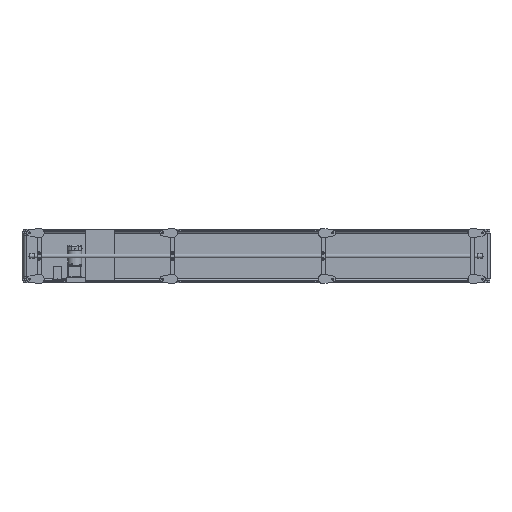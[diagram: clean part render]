
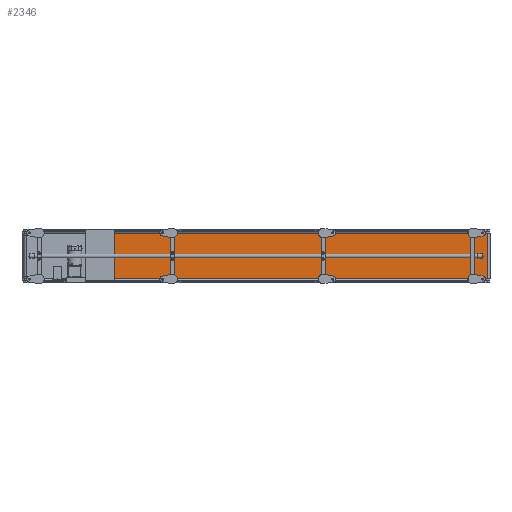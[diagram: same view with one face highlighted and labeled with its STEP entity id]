
A CAD part, front view. The second image highlights one B-rep face of the part: STEP entity #2346.
In plain terms, the highlighted planar face has unit normal (-0.001, -1, 0).
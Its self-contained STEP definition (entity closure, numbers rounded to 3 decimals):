
#2346=ADVANCED_FACE('',(#6828),#6827,.F.);
#6827=PLANE('',#32967);
#6828=FACE_OUTER_BOUND('',#32968,.T.);
#32964=CARTESIAN_POINT('',(2996.,-26.807,-155.));
#32965=DIRECTION('',(0.001,1.,0.));
#32966=DIRECTION('',(-1.,0.001,0.));
#32967=AXIS2_PLACEMENT_3D('',#32964,#32965,#32966);
#32968=EDGE_LOOP('',(#49298,#49299,#49300,#49301));
#49298=ORIENTED_EDGE('',*,*,#62182,.T.);
#49299=ORIENTED_EDGE('',*,*,#62183,.F.);
#49300=ORIENTED_EDGE('',*,*,#62184,.F.);
#49301=ORIENTED_EDGE('',*,*,#62180,.T.);
#62180=EDGE_CURVE('',#72082,#72075,#72083,.T.);
#62182=EDGE_CURVE('',#72075,#72095,#72096,.T.);
#62183=EDGE_CURVE('',#72102,#72095,#72103,.T.);
#62184=EDGE_CURVE('',#72082,#72102,#72109,.T.);
#72075=VERTEX_POINT('',#114995);
#72082=VERTEX_POINT('',#114999);
#72083=LINE('',#115000,#115001);
#72095=VERTEX_POINT('',#115006);
#72096=LINE('',#115007,#115008);
#72102=VERTEX_POINT('',#115010);
#72103=LINE('',#115011,#115012);
#72109=LINE('',#115014,#115015);
#114995=CARTESIAN_POINT('',(564.6,-25.059,-145.));
#114999=CARTESIAN_POINT('',(564.6,-25.059,145.));
#115000=CARTESIAN_POINT('',(564.6,-25.059,145.));
#115001=VECTOR('',#115002,290.);
#115002=DIRECTION('',(0.,0.,-1.));
#115006=CARTESIAN_POINT('',(2986.,-26.8,-145.));
#115007=CARTESIAN_POINT('',(564.6,-25.059,-145.));
#115008=VECTOR('',#115009,2421.401);
#115009=DIRECTION('',(1.,-0.001,0.));
#115010=CARTESIAN_POINT('',(2986.,-26.8,145.));
#115011=CARTESIAN_POINT('',(2986.,-26.8,145.));
#115012=VECTOR('',#115013,290.);
#115013=DIRECTION('',(0.,0.,-1.));
#115014=CARTESIAN_POINT('',(564.6,-25.059,145.));
#115015=VECTOR('',#115016,2421.401);
#115016=DIRECTION('',(1.,-0.001,0.));
